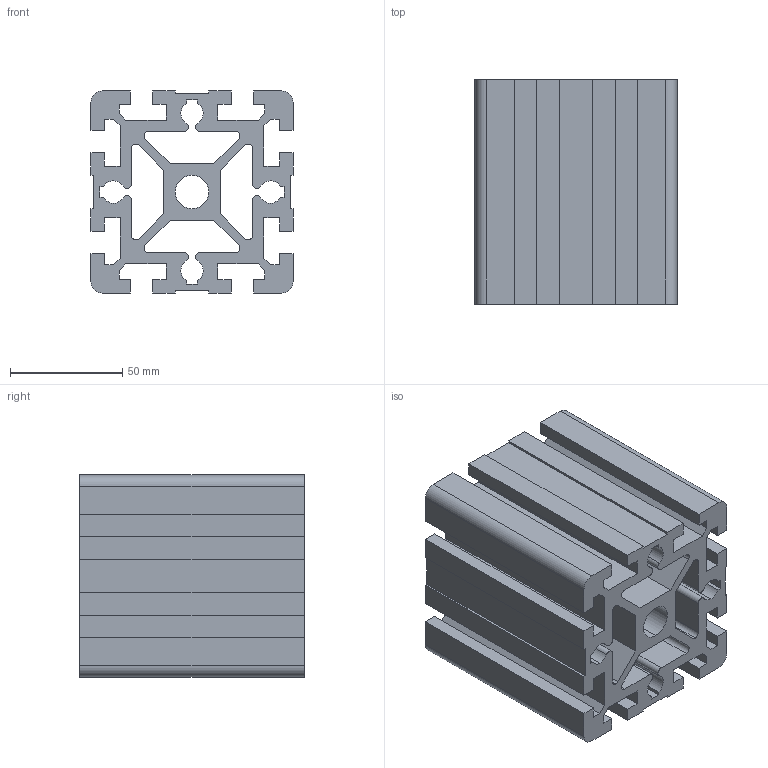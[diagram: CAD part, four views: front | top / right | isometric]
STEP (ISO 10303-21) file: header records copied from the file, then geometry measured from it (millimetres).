
FILE_DESCRIPTION (( 'STEP AP203' ), '1' );
FILE_NAME ('0110P9090S.STEP', '2024-03-01T12:15:58', ( 'Windows-Benutzer' ), ( '' ), 'SwSTEP 2.0', 'SolidWorks 2023', '' );
FILE_SCHEMA (( 'CONFIG_CONTROL_DESIGN' ));
Length unit declared in the file: millimetre
Products named in the file (1): 0110P9090S
Bounding box: 90 x 100 x 90 mm (x, y, z)
Volume: 391469.1 mm3; surface area: 137840.2 mm2
Topology: 1 solids, 1 shells, 162 faces, 480 edges, 320 vertices
Faces by surface type: plane 126, cylinder 36
Entity records: 5473 total; most frequent: CARTESIAN_POINT 963, ORIENTED_EDGE 960, DIRECTION 878, EDGE_CURVE 480, LINE 408, VECTOR 408, VERTEX_POINT 320, AXIS2_PLACEMENT_3D 235
